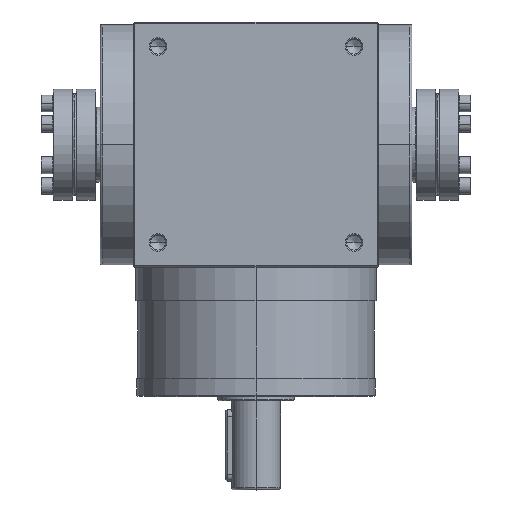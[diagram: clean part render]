
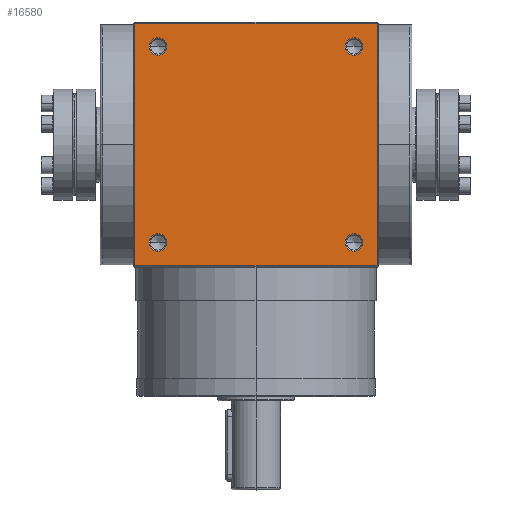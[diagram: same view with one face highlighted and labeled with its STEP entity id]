
A CAD part, top view. The second image highlights one B-rep face of the part: STEP entity #16580.
In plain terms, the highlighted planar face has unit normal (0, 0, 1).
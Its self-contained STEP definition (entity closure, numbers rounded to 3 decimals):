
#552 = DIRECTION ( 'NONE',  ( -1., 0., 0. ) ) ;
#592 = CARTESIAN_POINT ( 'NONE',  ( 54.5, -54.5, 55. ) ) ;
#743 = CARTESIAN_POINT ( 'NONE',  ( 0., 0., 55. ) ) ;
#755 = CIRCLE ( 'NONE', #13791, 3.9 ) ;
#769 = EDGE_LOOP ( 'NONE', ( #7658, #3291 ) ) ;
#794 = DIRECTION ( 'NONE',  ( 0., 0., -1. ) ) ;
#1123 = CARTESIAN_POINT ( 'NONE',  ( -54.5, -54.5, 55. ) ) ;
#1269 = DIRECTION ( 'NONE',  ( -1., 0., 0. ) ) ;
#1837 = EDGE_LOOP ( 'NONE', ( #17961, #11930 ) ) ;
#1973 = CIRCLE ( 'NONE', #8927, 3.9 ) ;
#2133 = LINE ( 'NONE', #11355, #13457 ) ;
#2410 = VECTOR ( 'NONE', #9281, 1000. ) ;
#2549 = CARTESIAN_POINT ( 'NONE',  ( -54.5, 54.5, 55. ) ) ;
#2662 = FACE_BOUND ( 'NONE', #769, .T. ) ;
#2673 = EDGE_CURVE ( 'NONE', #19499, #12217, #4362, .T. ) ;
#2940 = LINE ( 'NONE', #12729, #2410 ) ;
#3291 = ORIENTED_EDGE ( 'NONE', *, *, #20191, .T. ) ;
#3304 = CARTESIAN_POINT ( 'NONE',  ( 0., -54.5, 55. ) ) ;
#3361 = CIRCLE ( 'NONE', #12242, 3.9 ) ;
#3613 = DIRECTION ( 'NONE',  ( 0., 0., -1. ) ) ;
#3640 = CARTESIAN_POINT ( 'NONE',  ( 44., -44., 55. ) ) ;
#3835 = PLANE ( 'NONE',  #20753 ) ;
#4313 = CARTESIAN_POINT ( 'NONE',  ( 40.1, 44., 55. ) ) ;
#4362 = CIRCLE ( 'NONE', #18517, 3.9 ) ;
#4483 = LINE ( 'NONE', #3304, #11099 ) ;
#4504 = FACE_BOUND ( 'NONE', #1837, .T. ) ;
#4512 = CARTESIAN_POINT ( 'NONE',  ( 44., 44., 55. ) ) ;
#4546 = CARTESIAN_POINT ( 'NONE',  ( 47.9, 44., 55. ) ) ;
#4845 = ORIENTED_EDGE ( 'NONE', *, *, #16778, .T. ) ;
#4871 = EDGE_CURVE ( 'NONE', #16942, #6097, #10468, .T. ) ;
#5166 = AXIS2_PLACEMENT_3D ( 'NONE', #21618, #8046, #9593 ) ;
#5478 = CARTESIAN_POINT ( 'NONE',  ( -44., -44., 55. ) ) ;
#5940 = DIRECTION ( 'NONE',  ( -1., 0., 0. ) ) ;
#6026 = VERTEX_POINT ( 'NONE', #592 ) ;
#6028 = LINE ( 'NONE', #20193, #7887 ) ;
#6097 = VERTEX_POINT ( 'NONE', #4313 ) ;
#6107 = VERTEX_POINT ( 'NONE', #2549 ) ;
#6825 = DIRECTION ( 'NONE',  ( -1., 0., 0. ) ) ;
#6897 = FACE_OUTER_BOUND ( 'NONE', #13993, .T. ) ;
#7320 = ORIENTED_EDGE ( 'NONE', *, *, #7375, .T. ) ;
#7375 = EDGE_CURVE ( 'NONE', #20771, #6107, #2940, .T. ) ;
#7658 = ORIENTED_EDGE ( 'NONE', *, *, #2673, .T. ) ;
#7887 = VECTOR ( 'NONE', #16652, 1000. ) ;
#8046 = DIRECTION ( 'NONE',  ( 0., 0., -1. ) ) ;
#8074 = DIRECTION ( 'NONE',  ( 0., 0., -1. ) ) ;
#8903 = VERTEX_POINT ( 'NONE', #1123 ) ;
#8917 = ORIENTED_EDGE ( 'NONE', *, *, #11913, .T. ) ;
#8927 = AXIS2_PLACEMENT_3D ( 'NONE', #14081, #10645, #19200 ) ;
#9022 = DIRECTION ( 'NONE',  ( -1., 0., 0. ) ) ;
#9071 = ORIENTED_EDGE ( 'NONE', *, *, #19876, .T. ) ;
#9281 = DIRECTION ( 'NONE',  ( -1., 0., 0. ) ) ;
#9453 = EDGE_CURVE ( 'NONE', #9478, #14946, #1973, .T. ) ;
#9478 = VERTEX_POINT ( 'NONE', #17358 ) ;
#9593 = DIRECTION ( 'NONE',  ( -1., 0., 0. ) ) ;
#10327 = CIRCLE ( 'NONE', #5166, 3.9 ) ;
#10430 = ORIENTED_EDGE ( 'NONE', *, *, #9453, .T. ) ;
#10468 = CIRCLE ( 'NONE', #21372, 3.9 ) ;
#10645 = DIRECTION ( 'NONE',  ( 0., 0., -1. ) ) ;
#10831 = ORIENTED_EDGE ( 'NONE', *, *, #20545, .T. ) ;
#10839 = CARTESIAN_POINT ( 'NONE',  ( 44., 44., 55. ) ) ;
#11018 = CARTESIAN_POINT ( 'NONE',  ( 47.9, -44., 55. ) ) ;
#11099 = VECTOR ( 'NONE', #16847, 1000. ) ;
#11355 = CARTESIAN_POINT ( 'NONE',  ( 54.5, 0., 55. ) ) ;
#11699 = VERTEX_POINT ( 'NONE', #15907 ) ;
#11723 = DIRECTION ( 'NONE',  ( 0., 1., 0. ) ) ;
#11913 = EDGE_CURVE ( 'NONE', #14946, #9478, #10327, .T. ) ;
#11930 = ORIENTED_EDGE ( 'NONE', *, *, #20248, .T. ) ;
#12217 = VERTEX_POINT ( 'NONE', #14264 ) ;
#12242 = AXIS2_PLACEMENT_3D ( 'NONE', #13725, #3613, #18780 ) ;
#12360 = ORIENTED_EDGE ( 'NONE', *, *, #17514, .T. ) ;
#12392 = CIRCLE ( 'NONE', #13918, 3.9 ) ;
#12539 = DIRECTION ( 'NONE',  ( 0., 0., -1. ) ) ;
#12729 = CARTESIAN_POINT ( 'NONE',  ( 0., 54.5, 55. ) ) ;
#13457 = VECTOR ( 'NONE', #11723, 1000. ) ;
#13725 = CARTESIAN_POINT ( 'NONE',  ( 44., -44., 55. ) ) ;
#13791 = AXIS2_PLACEMENT_3D ( 'NONE', #4512, #19901, #1269 ) ;
#13918 = AXIS2_PLACEMENT_3D ( 'NONE', #3640, #16894, #6825 ) ;
#13993 = EDGE_LOOP ( 'NONE', ( #12360, #21551, #4845, #7320 ) ) ;
#14016 = FACE_BOUND ( 'NONE', #17880, .T. ) ;
#14031 = DIRECTION ( 'NONE',  ( 0., 0., -1. ) ) ;
#14081 = CARTESIAN_POINT ( 'NONE',  ( -44., 44., 55. ) ) ;
#14264 = CARTESIAN_POINT ( 'NONE',  ( -47.9, -44., 55. ) ) ;
#14692 = CARTESIAN_POINT ( 'NONE',  ( -47.9, 44., 55. ) ) ;
#14946 = VERTEX_POINT ( 'NONE', #14692 ) ;
#14986 = CIRCLE ( 'NONE', #17968, 3.9 ) ;
#15907 = CARTESIAN_POINT ( 'NONE',  ( 40.1, -44., 55. ) ) ;
#16358 = CARTESIAN_POINT ( 'NONE',  ( -44., -44., 55. ) ) ;
#16580 = ADVANCED_FACE ( 'NONE', ( #6897, #20057, #2662, #4504, #14016 ), #3835, .F. ) ;
#16652 = DIRECTION ( 'NONE',  ( 0., -1., 0. ) ) ;
#16758 = EDGE_CURVE ( 'NONE', #8903, #6026, #4483, .T. ) ;
#16778 = EDGE_CURVE ( 'NONE', #6026, #20771, #2133, .T. ) ;
#16847 = DIRECTION ( 'NONE',  ( 1., 0., 0. ) ) ;
#16894 = DIRECTION ( 'NONE',  ( 0., 0., -1. ) ) ;
#16942 = VERTEX_POINT ( 'NONE', #4546 ) ;
#17215 = CARTESIAN_POINT ( 'NONE',  ( -40.1, -44., 55. ) ) ;
#17358 = CARTESIAN_POINT ( 'NONE',  ( -40.1, 44., 55. ) ) ;
#17514 = EDGE_CURVE ( 'NONE', #6107, #8903, #6028, .T. ) ;
#17661 = EDGE_LOOP ( 'NONE', ( #9071, #10831 ) ) ;
#17880 = EDGE_LOOP ( 'NONE', ( #10430, #8917 ) ) ;
#17961 = ORIENTED_EDGE ( 'NONE', *, *, #4871, .T. ) ;
#17968 = AXIS2_PLACEMENT_3D ( 'NONE', #16358, #8074, #21434 ) ;
#18022 = CARTESIAN_POINT ( 'NONE',  ( 54.5, 54.5, 55. ) ) ;
#18344 = VERTEX_POINT ( 'NONE', #11018 ) ;
#18517 = AXIS2_PLACEMENT_3D ( 'NONE', #5478, #14031, #552 ) ;
#18780 = DIRECTION ( 'NONE',  ( -1., 0., 0. ) ) ;
#19200 = DIRECTION ( 'NONE',  ( -1., 0., 0. ) ) ;
#19499 = VERTEX_POINT ( 'NONE', #17215 ) ;
#19876 = EDGE_CURVE ( 'NONE', #18344, #11699, #12392, .T. ) ;
#19901 = DIRECTION ( 'NONE',  ( 0., 0., -1. ) ) ;
#20057 = FACE_BOUND ( 'NONE', #17661, .T. ) ;
#20191 = EDGE_CURVE ( 'NONE', #12217, #19499, #14986, .T. ) ;
#20193 = CARTESIAN_POINT ( 'NONE',  ( -54.5, 0., 55. ) ) ;
#20248 = EDGE_CURVE ( 'NONE', #6097, #16942, #755, .T. ) ;
#20545 = EDGE_CURVE ( 'NONE', #11699, #18344, #3361, .T. ) ;
#20753 = AXIS2_PLACEMENT_3D ( 'NONE', #743, #12539, #9022 ) ;
#20771 = VERTEX_POINT ( 'NONE', #18022 ) ;
#21372 = AXIS2_PLACEMENT_3D ( 'NONE', #10839, #794, #5940 ) ;
#21434 = DIRECTION ( 'NONE',  ( -1., 0., 0. ) ) ;
#21551 = ORIENTED_EDGE ( 'NONE', *, *, #16758, .T. ) ;
#21618 = CARTESIAN_POINT ( 'NONE',  ( -44., 44., 55. ) ) ;
